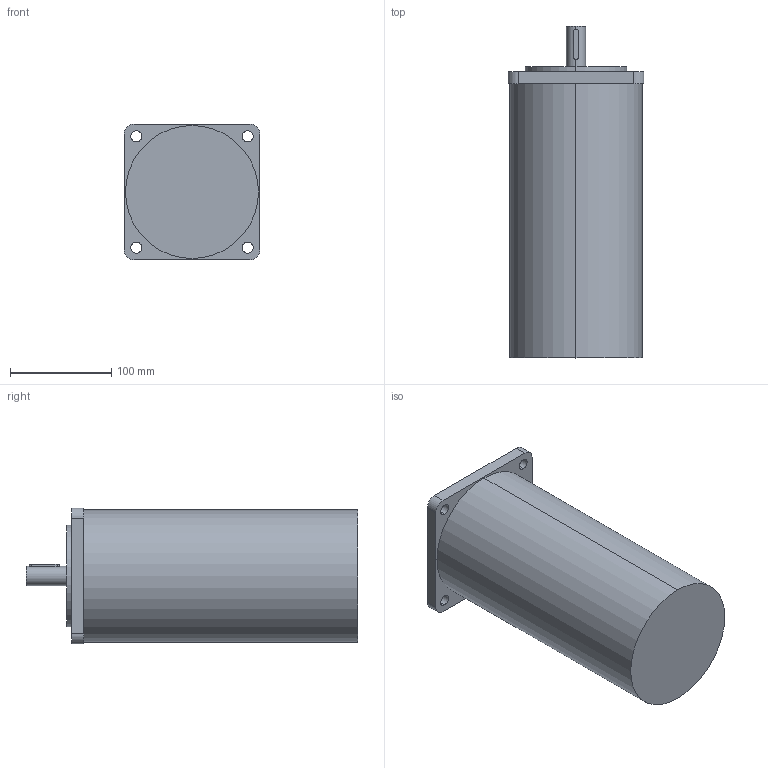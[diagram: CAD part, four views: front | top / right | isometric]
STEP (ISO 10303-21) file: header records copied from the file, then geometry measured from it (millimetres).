
FILE_DESCRIPTION (( 'STEP AP214' ), '1' );
FILE_NAME ('130B50.STEP', '2020-08-27T23:56:48', ( 'wimxt.com' ), ( 'wimxt.com' ), 'SwSTEP 2.0', 'SolidWorks 2014', '' );
FILE_SCHEMA (( 'AUTOMOTIVE_DESIGN' ));
Length unit declared in the file: millimetre
Products named in the file (1): 130B50
Bounding box: 134 x 327 x 134 mm (x, y, z)
Volume: 3899915 mm3; surface area: 158090.4 mm2
Topology: 1 solids, 1 shells, 32 faces, 81 edges, 54 vertices
Faces by surface type: cylinder 20, plane 12
Entity records: 1085 total; most frequent: CARTESIAN_POINT 228, DIRECTION 181, ORIENTED_EDGE 162, EDGE_CURVE 81, AXIS2_PLACEMENT_3D 71, VERTEX_POINT 54, EDGE_LOOP 43, LINE 39
